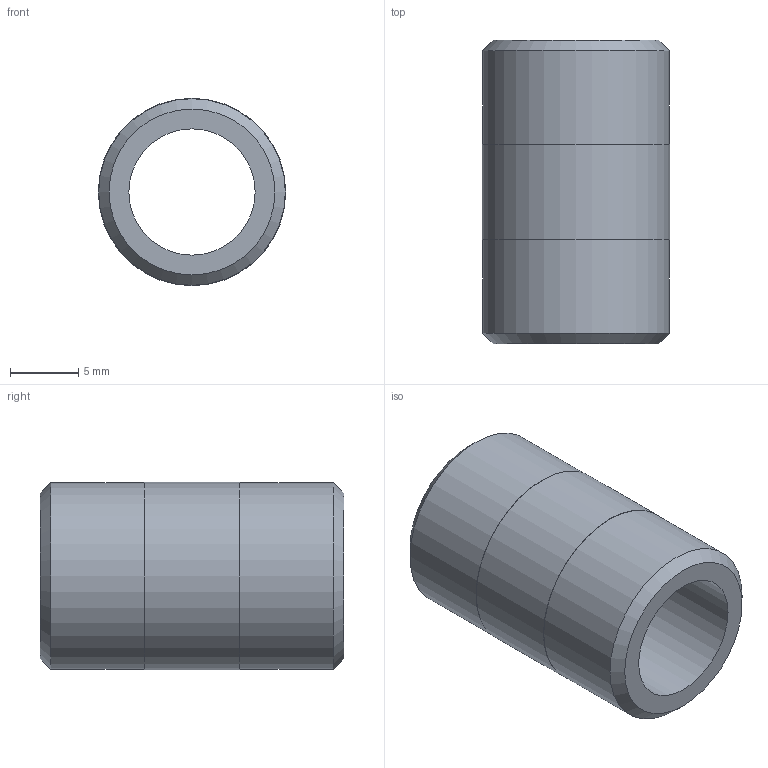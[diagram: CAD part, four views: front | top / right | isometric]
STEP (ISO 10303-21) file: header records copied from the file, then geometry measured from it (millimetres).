
FILE_DESCRIPTION(/* description */ (''),/* implementation_level */ '2;1');
FILE_NAME(/* name */ 'C:/Users/drich/Desktop/SSPN14-CLOSE v1.step',/* time_stamp */ '2020-01-04T13:15:27-06:00',/* author */ (''),/* organization */ (''),/* preprocessor_version */ 'ST-DEVELOPER v18',/* originating_system */ 'Autodesk Translation Framework v8.12.0.6',/* authorisation */ '');
FILE_SCHEMA (('AUTOMOTIVE_DESIGN { 1 0 10303 214 3 1 1 }'));
Length unit declared in the file: inch
Products named in the file (1): SSPN14-CLOSE
Bounding box: 13.72 x 22.23 x 13.72 mm (x, y, z)
Volume: 1751.1 mm3; surface area: 1722.2 mm2
Topology: 1 solids, 1 shells, 10 faces, 24 edges, 18 vertices
Faces by surface type: cylinder 4, plane 4, cone 2
Full cylindrical faces by diameter (mm): 9.246 x1, 13.665 x2, 13.716 x1
Entity records: 353 total; most frequent: DIRECTION 64, CARTESIAN_POINT 53, ORIENTED_EDGE 48, AXIS2_PLACEMENT_3D 29, EDGE_CURVE 24, CIRCLE 18, VERTEX_POINT 18, EDGE_LOOP 14
